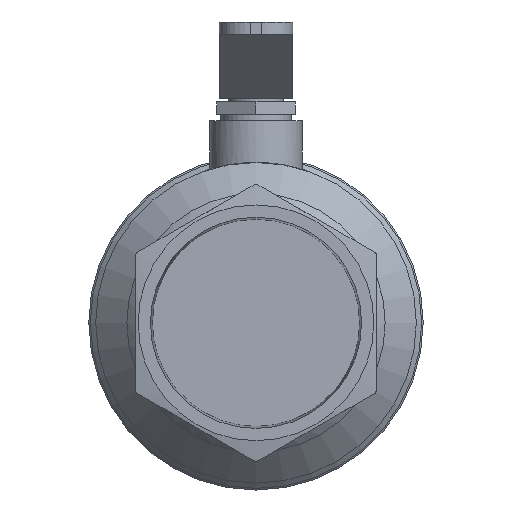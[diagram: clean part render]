
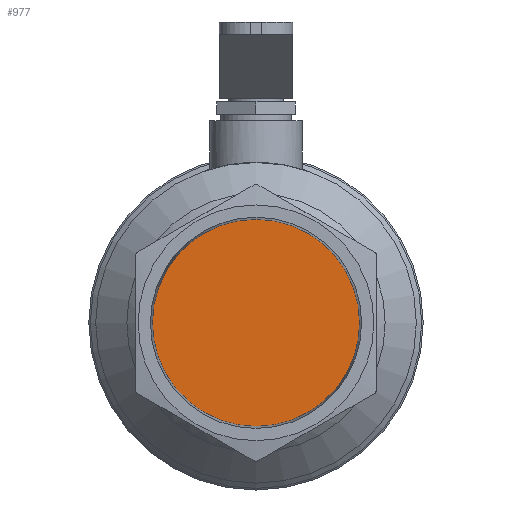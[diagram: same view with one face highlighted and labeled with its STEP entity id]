
A CAD part, left-side view. The second image highlights one B-rep face of the part: STEP entity #977.
In plain terms, the highlighted free-form (B-spline) face has degree [1, 1] with [2, 2] control points.
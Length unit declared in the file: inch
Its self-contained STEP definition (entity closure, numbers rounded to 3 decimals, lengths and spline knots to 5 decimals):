
#957=CARTESIAN_POINT('',(1.0166,1.6625,0.0));
#958=VERTEX_POINT('',#957);
#959=CARTESIAN_POINT('',(1.0166,0.0,0.0));
#960=DIRECTION('',(1.0,0.0,0.0));
#961=DIRECTION('',(0.0,1.0,0.0));
#962=AXIS2_PLACEMENT_3D('',#959,#960,#961);
#963=CIRCLE('',#962,1.6625);
#964=EDGE_CURVE('',#958,#958,#963,.T.);
#969=CARTESIAN_POINT('',(1.0166,1.6625,1.6625));
#970=CARTESIAN_POINT('',(1.0166,-1.6625,1.6625));
#971=CARTESIAN_POINT('',(1.0166,1.6625,-1.6625));
#972=CARTESIAN_POINT('',(1.0166,-1.6625,-1.6625));
#973=B_SPLINE_SURFACE_WITH_KNOTS('',1,1,((#969,#971),(#970,#972)),.UNSPECIFIED.,.F.,.F.,.U.,(2,2),(2,2),(0.0,3.325),(0.0,3.325),.UNSPECIFIED.);
#974=ORIENTED_EDGE('',*,*,#964,.F.);
#975=EDGE_LOOP('',(#974));
#976=FACE_OUTER_BOUND('',#975,.T.);
#977=ADVANCED_FACE('',(#976),#973,.F.);
